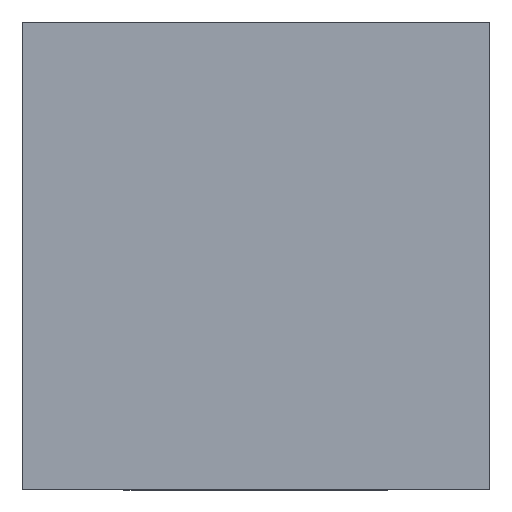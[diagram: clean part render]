
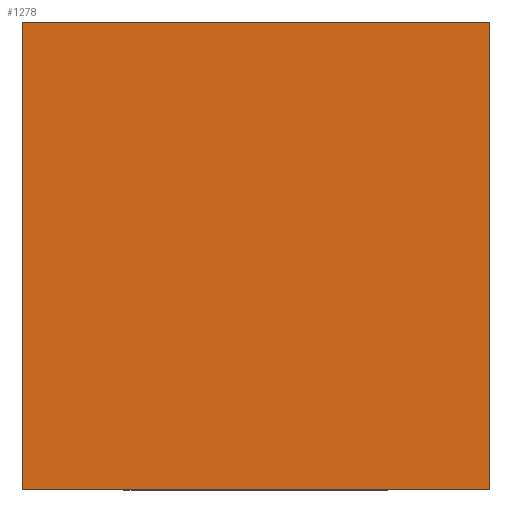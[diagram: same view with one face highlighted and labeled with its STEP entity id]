
A CAD part, top view. The second image highlights one B-rep face of the part: STEP entity #1278.
In plain terms, the highlighted planar face has unit normal (0, 0, 1).
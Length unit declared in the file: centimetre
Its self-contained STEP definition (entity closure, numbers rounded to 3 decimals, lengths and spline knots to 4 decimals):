
#76 = VECTOR ( 'NONE', #1555, 100. ) ;
#106 = LINE ( 'NONE', #939, #76 ) ;
#220 = LINE ( 'NONE', #697, #656 ) ;
#445 = DIRECTION ( 'NONE',  ( 0., 1., 0. ) ) ;
#455 = EDGE_CURVE ( 'NONE', #1276, #1508, #1532, .T. ) ;
#456 = VECTOR ( 'NONE', #941, 100. ) ;
#460 = DIRECTION ( 'NONE',  ( 1., 0., 0. ) ) ;
#481 = VERTEX_POINT ( 'NONE', #1524 ) ;
#543 = ORIENTED_EDGE ( 'NONE', *, *, #744, .T. ) ;
#572 = CARTESIAN_POINT ( 'NONE',  ( 0., 1000., 1000. ) ) ;
#579 = ORIENTED_EDGE ( 'NONE', *, *, #989, .T. ) ;
#621 = ORIENTED_EDGE ( 'NONE', *, *, #1255, .T. ) ;
#639 = CARTESIAN_POINT ( 'NONE',  ( 0., 0., 1000. ) ) ;
#656 = VECTOR ( 'NONE', #816, 100. ) ;
#682 = DIRECTION ( 'NONE',  ( 0., 0., 1. ) ) ;
#690 = FACE_OUTER_BOUND ( 'NONE', #872, .T. ) ;
#697 = CARTESIAN_POINT ( 'NONE',  ( 0., 0., 1000. ) ) ;
#711 = LINE ( 'NONE', #1297, #734 ) ;
#734 = VECTOR ( 'NONE', #445, 100. ) ;
#744 = EDGE_CURVE ( 'NONE', #481, #1276, #106, .T. ) ;
#816 = DIRECTION ( 'NONE',  ( 1., 0., 0. ) ) ;
#872 = EDGE_LOOP ( 'NONE', ( #1043, #621, #579, #543 ) ) ;
#927 = CARTESIAN_POINT ( 'NONE',  ( 0., 0., 1000. ) ) ;
#939 = CARTESIAN_POINT ( 'NONE',  ( 0., 1000., 1000. ) ) ;
#941 = DIRECTION ( 'NONE',  ( 0., -1., 0. ) ) ;
#960 = AXIS2_PLACEMENT_3D ( 'NONE', #927, #682, #460 ) ;
#989 = EDGE_CURVE ( 'NONE', #1279, #481, #711, .T. ) ;
#1043 = ORIENTED_EDGE ( 'NONE', *, *, #455, .T. ) ;
#1055 = CARTESIAN_POINT ( 'NONE',  ( 0., 1000., 1000. ) ) ;
#1171 = CARTESIAN_POINT ( 'NONE',  ( 1000., 0., 1000. ) ) ;
#1255 = EDGE_CURVE ( 'NONE', #1508, #1279, #220, .T. ) ;
#1276 = VERTEX_POINT ( 'NONE', #572 ) ;
#1278 = ADVANCED_FACE ( 'NONE', ( #690 ), #1303, .T. ) ;
#1279 = VERTEX_POINT ( 'NONE', #1171 ) ;
#1297 = CARTESIAN_POINT ( 'NONE',  ( 1000., 1000., 1000. ) ) ;
#1303 = PLANE ( 'NONE',  #960 ) ;
#1508 = VERTEX_POINT ( 'NONE', #639 ) ;
#1524 = CARTESIAN_POINT ( 'NONE',  ( 1000., 1000., 1000. ) ) ;
#1532 = LINE ( 'NONE', #1055, #456 ) ;
#1555 = DIRECTION ( 'NONE',  ( -1., 0., 0. ) ) ;
